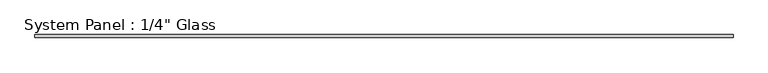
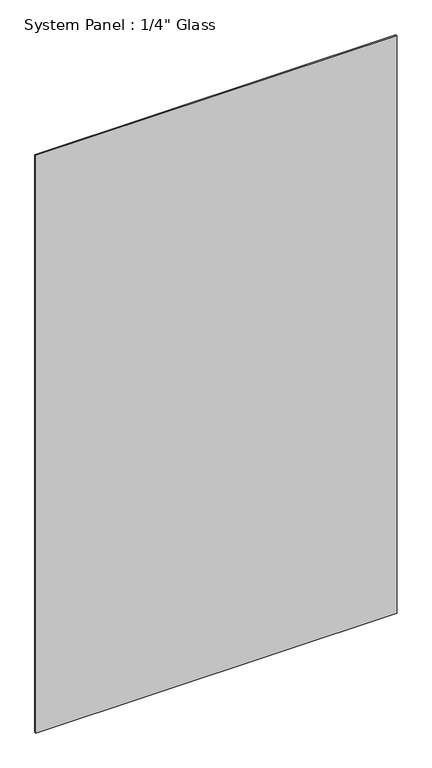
"""IFC4 building model written with IfcOpenShell, lengths in millimetres: plate geometry."""

from ifc_helpers import new_model, si_unit, origin, origin_with_axes, place, context, project, spatial, polyline, outline, extrude, source, transform, mapped, element, save


def plate_67294edd(model_context):
    return source(origin(), model_context, "Body", "SweptSolid", [
        extrude(outline(polyline([(736.6, -3.175), (-736.6, -3.175), (-736.6, 3.175), (736.6, 3.175), (736.6, -3.175)])), origin_with_axes(), (0.0, 0.0, 1.0), 2489.2),
    ])


if __name__ == "__main__":
    model = new_model("IFC4")
    model_context = context("Model", 3, world=origin())
    ifc_project = project(units=[si_unit("LENGTHUNIT", "METRE", prefix="MILLI")], contexts=[model_context])
    site = spatial("IfcSite", under=ifc_project)
    building = spatial("IfcBuilding", under=site)
    placement = place(None, origin())
    plate_shape = plate_67294edd(model_context)
    element("IfcPlate", 1, ObjectType="System Panel : 1/4\" Glass", at=placement, inside=building, context=model_context, shape_type="MappedRepresentation", body=[
        mapped(plate_shape, transform((0.0, 0.0, 0.0), x_axis=(1.0, 0.0, 0.0), y_axis=(0.0, 1.0, 0.0), z_axis=(0.0, 0.0, 1.0))),
    ])
    save(model, "model.ifc")
